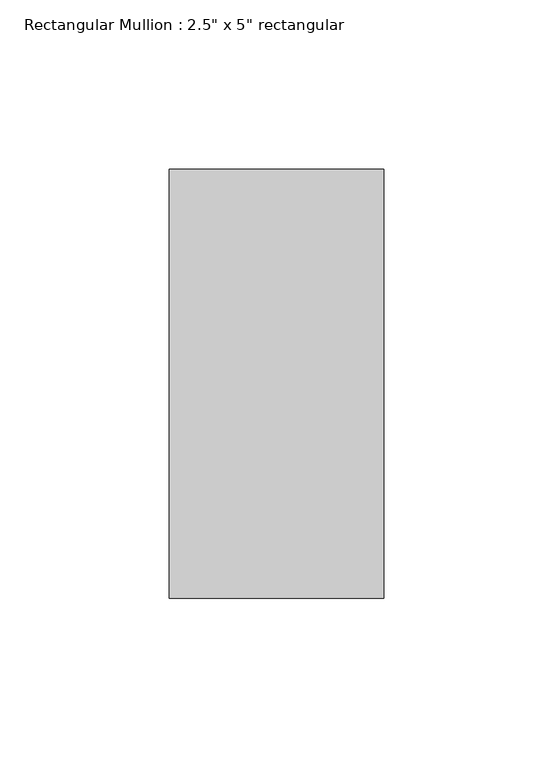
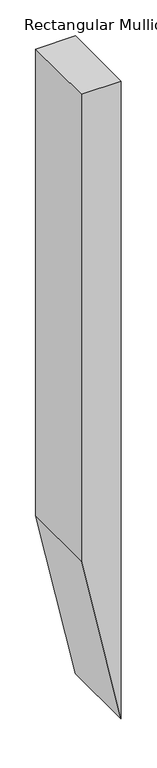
"""IFC4 building model written with IfcOpenShell, lengths in millimetres: member geometry."""

from ifc_helpers import new_model, si_unit, frame, origin, place, context, project, spatial, polyline, outline, extrude, source, transform, mapped, element, save


def member_99cfcb15(model_context):
    return source(origin(), model_context, "Body", "SweptSolid", [
        extrude(outline(polyline([(0.0, 31.75), (0.0, -31.75), (-791.9465413, -31.75), (-1081.3679982, 31.75), (0.0, 31.75)])), frame((0.0, -63.5, 0.0), z_axis=(0.0, 1.0, 0.0), x_axis=(0.0, 0.0, 1.0)), (0.0, 0.0, 1.0), 127.0),
    ])


if __name__ == "__main__":
    model = new_model("IFC4")
    model_context = context("Model", 3, world=origin())
    ifc_project = project(units=[si_unit("LENGTHUNIT", "METRE", prefix="MILLI")], contexts=[model_context])
    site = spatial("IfcSite", under=ifc_project)
    building = spatial("IfcBuilding", under=site)
    placement = place(None, origin())
    member_shape = member_99cfcb15(model_context)
    element("IfcMember", 1, ObjectType="Rectangular Mullion : 2.5\" x 5\" rectangular", at=placement, inside=building, context=model_context, shape_type="MappedRepresentation", body=[
        mapped(member_shape, transform((0.0, 0.0, 0.0), x_axis=(1.0, 0.0, 0.0), y_axis=(0.0, 1.0, 0.0), z_axis=(0.0, 0.0, 1.0))),
    ])
    save(model, "model.ifc")
